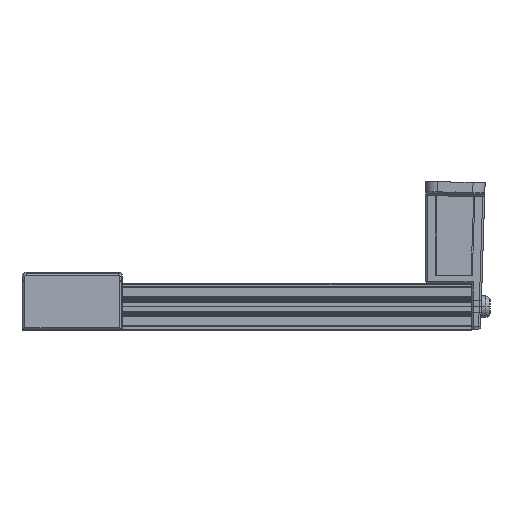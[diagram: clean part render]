
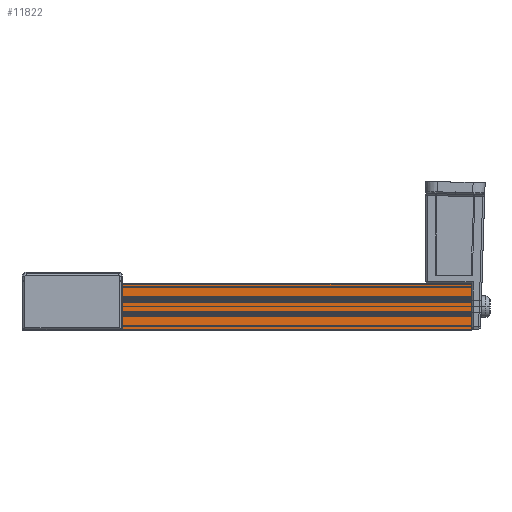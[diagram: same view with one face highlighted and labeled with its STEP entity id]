
A CAD part, left-side view. The second image highlights one B-rep face of the part: STEP entity #11822.
In plain terms, the highlighted planar face has unit normal (-1, 0, 0).
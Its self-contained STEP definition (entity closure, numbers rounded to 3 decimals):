
#96 = VERTEX_POINT ( 'NONE', #19231 ) ;
#1254 = DIRECTION ( 'NONE',  ( -1., 0., 0. ) ) ;
#2313 = AXIS2_PLACEMENT_3D ( 'NONE', #2858, #1254, #20794 ) ;
#2648 = VECTOR ( 'NONE', #4816, 1000. ) ;
#2653 = VECTOR ( 'NONE', #6973, 1000. ) ;
#2858 = CARTESIAN_POINT ( 'NONE',  ( -321., 0., -2.7 ) ) ;
#2941 = ORIENTED_EDGE ( 'NONE', *, *, #20578, .T. ) ;
#3437 = DIRECTION ( 'NONE',  ( 0., 1., 0. ) ) ;
#3682 = EDGE_CURVE ( 'NONE', #4971, #20901, #7811, .T. ) ;
#4530 = ORIENTED_EDGE ( 'NONE', *, *, #8487, .F. ) ;
#4816 = DIRECTION ( 'NONE',  ( 0., -0.664, -0.747 ) ) ;
#4912 = FACE_OUTER_BOUND ( 'NONE', #14021, .T. ) ;
#4971 = VERTEX_POINT ( 'NONE', #5643 ) ;
#5106 = ORIENTED_EDGE ( 'NONE', *, *, #9126, .F. ) ;
#5643 = CARTESIAN_POINT ( 'NONE',  ( -321., -87., -14.2 ) ) ;
#6800 = VECTOR ( 'NONE', #20997, 1000. ) ;
#6973 = DIRECTION ( 'NONE',  ( 0., 0., -1. ) ) ;
#7186 = VECTOR ( 'NONE', #7759, 1000. ) ;
#7544 = CARTESIAN_POINT ( 'NONE',  ( -321., -86.867, -3. ) ) ;
#7759 = DIRECTION ( 'NONE',  ( 0., 0., -1. ) ) ;
#7811 = LINE ( 'NONE', #9538, #6800 ) ;
#8487 = EDGE_CURVE ( 'NONE', #10459, #96, #11241, .T. ) ;
#8677 = CARTESIAN_POINT ( 'NONE',  ( -321., -87., -3.15 ) ) ;
#9126 = EDGE_CURVE ( 'NONE', #96, #4971, #20651, .T. ) ;
#9538 = CARTESIAN_POINT ( 'NONE',  ( -321., -87., -14.2 ) ) ;
#9698 = CARTESIAN_POINT ( 'NONE',  ( -321., -86.867, -3. ) ) ;
#10272 = ORIENTED_EDGE ( 'NONE', *, *, #20331, .T. ) ;
#10459 = VERTEX_POINT ( 'NONE', #7544 ) ;
#11241 = LINE ( 'NONE', #9698, #2648 ) ;
#11822 = ADVANCED_FACE ( 'NONE', ( #4912 ), #12649, .T. ) ;
#12649 = PLANE ( 'NONE',  #2313 ) ;
#14021 = EDGE_LOOP ( 'NONE', ( #10272, #2941, #15581, #5106, #4530 ) ) ;
#14498 = CARTESIAN_POINT ( 'NONE',  ( -321., 0., -3. ) ) ;
#14574 = VERTEX_POINT ( 'NONE', #14498 ) ;
#15221 = LINE ( 'NONE', #19455, #18468 ) ;
#15581 = ORIENTED_EDGE ( 'NONE', *, *, #3682, .F. ) ;
#16891 = LINE ( 'NONE', #19009, #7186 ) ;
#18468 = VECTOR ( 'NONE', #3437, 1000. ) ;
#19009 = CARTESIAN_POINT ( 'NONE',  ( -321., 0., -3. ) ) ;
#19231 = CARTESIAN_POINT ( 'NONE',  ( -321., -87., -3.15 ) ) ;
#19334 = CARTESIAN_POINT ( 'NONE',  ( -321., 0., -14.2 ) ) ;
#19455 = CARTESIAN_POINT ( 'NONE',  ( -321., -86.867, -3. ) ) ;
#20331 = EDGE_CURVE ( 'NONE', #10459, #14574, #15221, .T. ) ;
#20578 = EDGE_CURVE ( 'NONE', #14574, #20901, #16891, .T. ) ;
#20651 = LINE ( 'NONE', #8677, #2653 ) ;
#20794 = DIRECTION ( 'NONE',  ( 0., 0., -1. ) ) ;
#20901 = VERTEX_POINT ( 'NONE', #19334 ) ;
#20997 = DIRECTION ( 'NONE',  ( 0., 1., 0. ) ) ;
